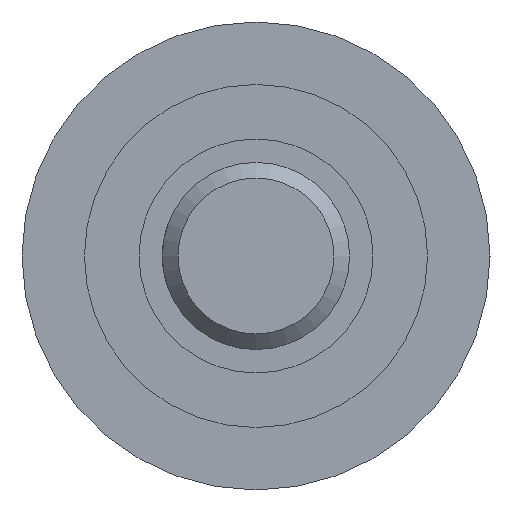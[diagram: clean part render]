
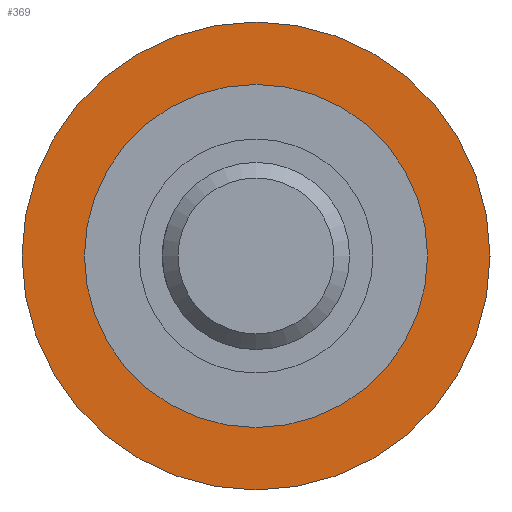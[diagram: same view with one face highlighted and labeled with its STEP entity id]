
A CAD part, left-side view. The second image highlights one B-rep face of the part: STEP entity #369.
In plain terms, the highlighted planar face has unit normal (-1, 0, 0).
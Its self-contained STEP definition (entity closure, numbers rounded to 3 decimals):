
#18=FACE_BOUND('',#108,.T.);
#42=CIRCLE('',#429,11.);
#43=CIRCLE('',#430,11.);
#44=CIRCLE('',#432,15.);
#45=CIRCLE('',#433,15.);
#82=FACE_OUTER_BOUND('',#107,.T.);
#107=EDGE_LOOP('',(#309,#310));
#108=EDGE_LOOP('',(#311,#312));
#176=VERTEX_POINT('',#684);
#177=VERTEX_POINT('',#685);
#178=VERTEX_POINT('',#690);
#179=VERTEX_POINT('',#691);
#223=EDGE_CURVE('',#176,#177,#42,.T.);
#224=EDGE_CURVE('',#177,#176,#43,.T.);
#226=EDGE_CURVE('',#178,#179,#44,.T.);
#227=EDGE_CURVE('',#179,#178,#45,.T.);
#309=ORIENTED_EDGE('',*,*,#226,.F.);
#310=ORIENTED_EDGE('',*,*,#227,.F.);
#311=ORIENTED_EDGE('',*,*,#223,.T.);
#312=ORIENTED_EDGE('',*,*,#224,.T.);
#350=PLANE('',#431);
#369=ADVANCED_FACE('',(#82,#18),#350,.T.);
#429=AXIS2_PLACEMENT_3D('',#686,#531,#532);
#430=AXIS2_PLACEMENT_3D('',#687,#533,#534);
#431=AXIS2_PLACEMENT_3D('',#689,#536,#537);
#432=AXIS2_PLACEMENT_3D('',#692,#538,#539);
#433=AXIS2_PLACEMENT_3D('',#693,#540,#541);
#531=DIRECTION('center_axis',(1.,0.,0.));
#532=DIRECTION('ref_axis',(0.,0.,-1.));
#533=DIRECTION('center_axis',(1.,0.,0.));
#534=DIRECTION('ref_axis',(0.,0.,-1.));
#536=DIRECTION('center_axis',(-1.,0.,0.));
#537=DIRECTION('ref_axis',(0.,0.,1.));
#538=DIRECTION('center_axis',(1.,0.,0.));
#539=DIRECTION('ref_axis',(0.,0.,-1.));
#540=DIRECTION('center_axis',(1.,0.,0.));
#541=DIRECTION('ref_axis',(0.,0.,-1.));
#684=CARTESIAN_POINT('',(-137.,11.,0.));
#685=CARTESIAN_POINT('',(-137.,-11.,0.));
#686=CARTESIAN_POINT('Origin',(-137.,0.,0.));
#687=CARTESIAN_POINT('Origin',(-137.,0.,0.));
#689=CARTESIAN_POINT('Origin',(-137.,15.,0.));
#690=CARTESIAN_POINT('',(-137.,15.,0.));
#691=CARTESIAN_POINT('',(-137.,-15.,0.));
#692=CARTESIAN_POINT('Origin',(-137.,0.,0.));
#693=CARTESIAN_POINT('Origin',(-137.,0.,0.));
